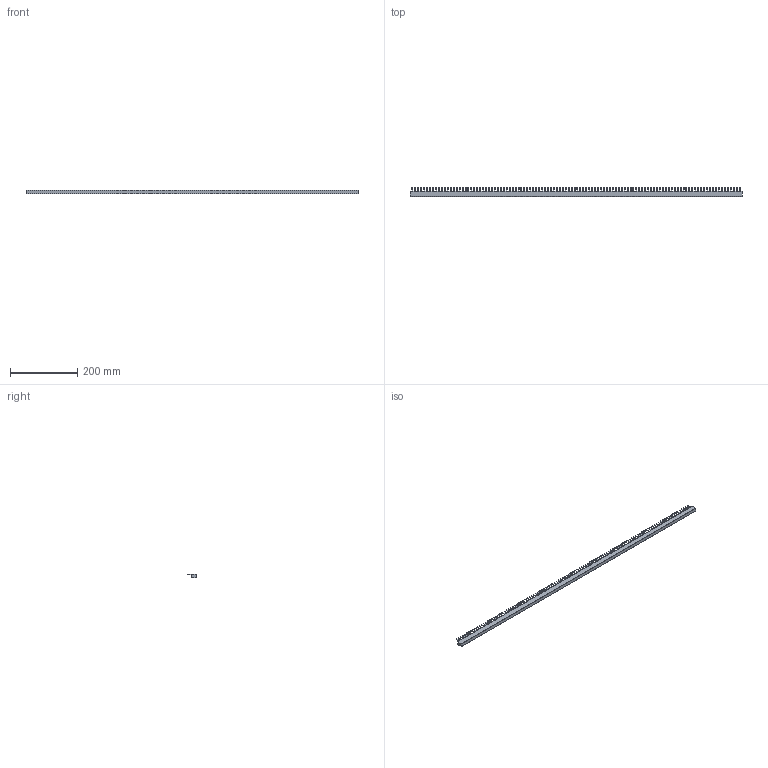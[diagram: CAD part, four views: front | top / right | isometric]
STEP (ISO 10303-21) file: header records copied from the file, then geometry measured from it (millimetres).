
FILE_DESCRIPTION (( 'STEP AP214' ), '1' );
FILE_NAME ('RIC-PS-2-4.STEP', '2024-04-11T07:02:50', ( '' ), ( '' ), 'SwSTEP 2.0', 'SolidWorks 2022', '' );
FILE_SCHEMA (( 'AUTOMOTIVE_DESIGN' ));
Length unit declared in the file: millimetre
Products named in the file (1): RIC-PS-2-4
Bounding box: 986 x 27.19 x 10.6 mm (x, y, z)
Volume: 164370.2 mm3; surface area: 62421.4 mm2
Topology: 1 solids, 1 shells, 990 faces, 2628 edges, 1752 vertices
Faces by surface type: plane 566, cylinder 424
Entity records: 31044 total; most frequent: DIRECTION 5458, CARTESIAN_POINT 5371, ORIENTED_EDGE 5256, EDGE_CURVE 2628, AXIS2_PLACEMENT_3D 1839, LINE 1780, VECTOR 1780, VERTEX_POINT 1752
